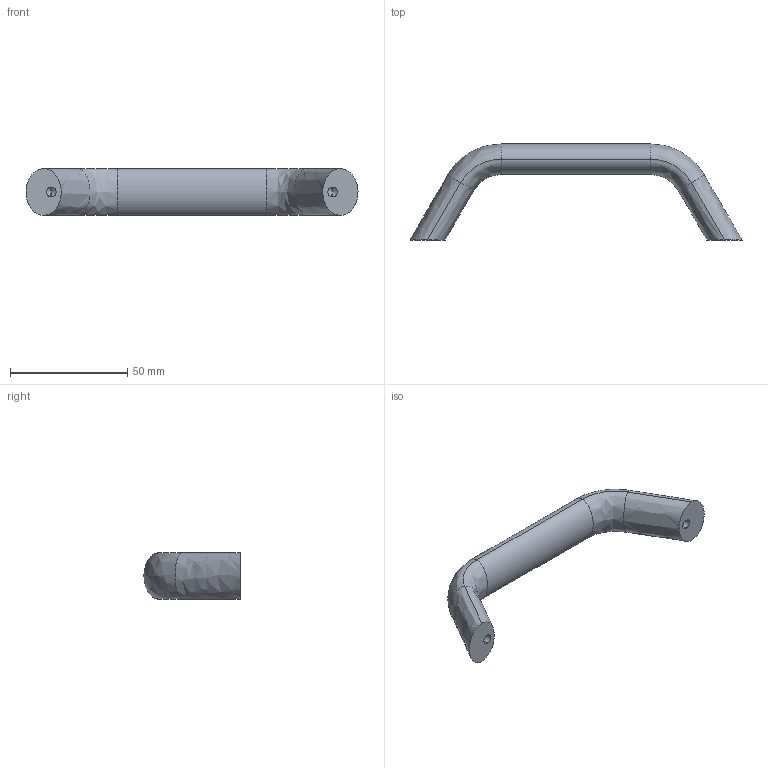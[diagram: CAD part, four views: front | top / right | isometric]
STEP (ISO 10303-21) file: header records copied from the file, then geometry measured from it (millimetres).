
FILE_DESCRIPTION (( 'STEP AP203' ), '1' );
FILE_NAME ('A-748.STEP', '2015-11-21T12:11:53', ( '' ), ( '' ), 'SwSTEP 2.0', 'SolidWorks 2014', '' );
FILE_SCHEMA (( 'CONFIG_CONTROL_DESIGN' ));
Length unit declared in the file: millimetre
Products named in the file (1): A-748
Bounding box: 141.65 x 40.98 x 20 mm (x, y, z)
Volume: 32719.4 mm3; surface area: 9347.5 mm2
Topology: 1 solids, 1 shells, 20 faces, 42 edges, 22 vertices
Faces by surface type: bspline 10, cylinder 4, cone 4, plane 2
Entity records: 773 total; most frequent: CARTESIAN_POINT 355, ORIENTED_EDGE 76, DIRECTION 60, EDGE_CURVE 38, AXIS2_PLACEMENT_3D 23, VERTEX_POINT 22, EDGE_LOOP 22, ADVANCED_FACE 20
